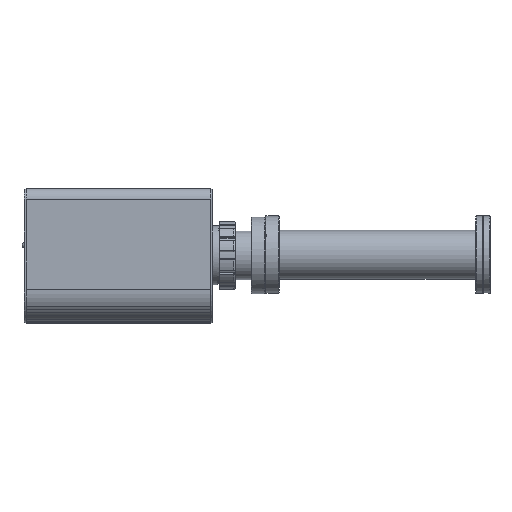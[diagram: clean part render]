
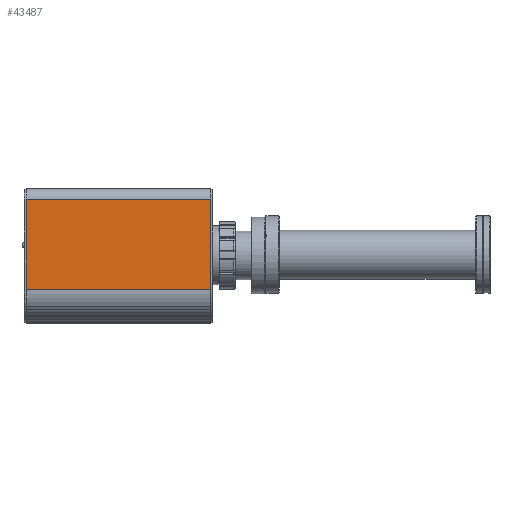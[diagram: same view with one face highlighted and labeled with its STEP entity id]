
A CAD part, left-side view. The second image highlights one B-rep face of the part: STEP entity #43487.
In plain terms, the highlighted planar face has unit normal (-1, 0, 0) as drawn and (0, 0, 1) by its records, which use the part's own axes.
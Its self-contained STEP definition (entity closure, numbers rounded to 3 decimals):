
#2027=PLANE('',#46573);
#3845=FACE_OUTER_BOUND('',#6456,.T.);
#6456=EDGE_LOOP('',(#30961,#30962,#30963,#30964));
#9295=LINE('',#67784,#12418);
#9367=LINE('',#68021,#12490);
#9653=LINE('',#68649,#12776);
#9654=LINE('',#68650,#12777);
#12418=VECTOR('',#52493,25.4);
#12490=VECTOR('',#52695,25.4);
#12776=VECTOR('',#53205,25.4);
#12777=VECTOR('',#53206,25.4);
#18079=VERTEX_POINT('',#67781);
#18080=VERTEX_POINT('',#67783);
#18179=VERTEX_POINT('',#68018);
#18180=VERTEX_POINT('',#68020);
#22752=EDGE_CURVE('',#18080,#18079,#9295,.T.);
#22869=EDGE_CURVE('',#18179,#18180,#9367,.T.);
#23203=EDGE_CURVE('',#18080,#18179,#9653,.T.);
#23204=EDGE_CURVE('',#18079,#18180,#9654,.T.);
#30961=ORIENTED_EDGE('',*,*,#22869,.F.);
#30962=ORIENTED_EDGE('',*,*,#23203,.F.);
#30963=ORIENTED_EDGE('',*,*,#22752,.T.);
#30964=ORIENTED_EDGE('',*,*,#23204,.T.);
#43487=ADVANCED_FACE('',(#3845),#2027,.T.);
#46573=AXIS2_PLACEMENT_3D('',#68648,#53203,#53204);
#52493=DIRECTION('',(1.,0.,0.));
#52695=DIRECTION('',(1.,0.,0.));
#53203=DIRECTION('center_axis',(0.,0.,
1.));
#53204=DIRECTION('ref_axis',(-1.,0.,0.));
#53205=DIRECTION('',(0.,1.,0.));
#53206=DIRECTION('',(0.,1.,0.));
#67781=CARTESIAN_POINT('',(49.735,49.662,57.485));
#67783=CARTESIAN_POINT('',(-31.167,49.662,57.485));
#67784=CARTESIAN_POINT('',(-31.167,49.662,57.485));
#68018=CARTESIAN_POINT('',(-31.167,216.413,57.485));
#68020=CARTESIAN_POINT('',(49.735,216.413,57.485));
#68021=CARTESIAN_POINT('',(-31.167,216.413,57.485));
#68648=CARTESIAN_POINT('Origin',(-31.167,49.662,57.485));
#68649=CARTESIAN_POINT('',(-31.167,49.662,57.485));
#68650=CARTESIAN_POINT('',(49.735,49.662,57.485));
